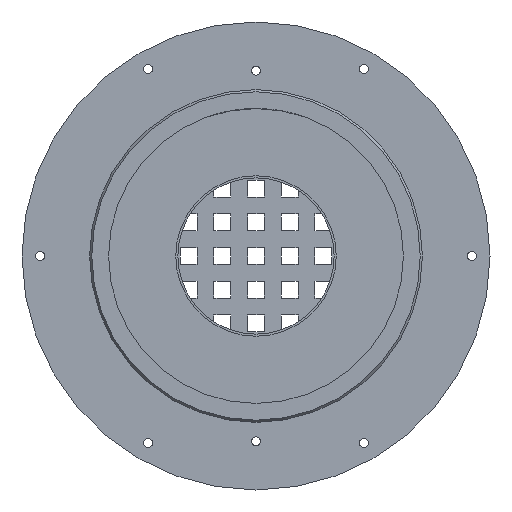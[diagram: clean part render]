
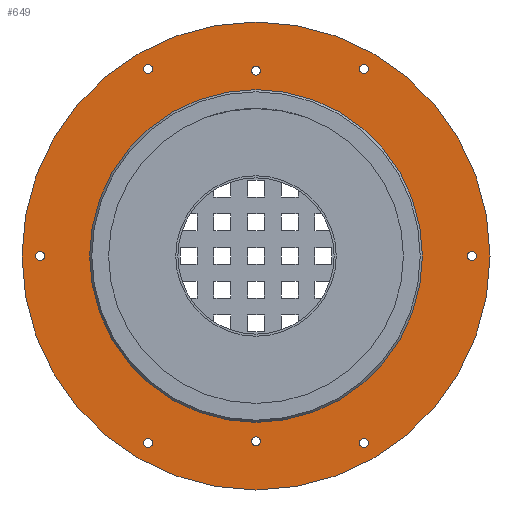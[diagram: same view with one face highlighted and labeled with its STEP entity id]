
A CAD part, front view. The second image highlights one B-rep face of the part: STEP entity #649.
In plain terms, the highlighted planar face has unit normal (0, -1, 0).
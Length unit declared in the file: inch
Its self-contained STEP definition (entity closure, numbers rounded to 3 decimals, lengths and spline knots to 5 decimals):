
#212=CARTESIAN_POINT('',(4.12008,1.0426,0.));
#213=VERTEX_POINT('',#212);
#214=CARTESIAN_POINT('',(4.03543,1.0426,0.));
#215=DIRECTION('',(0.0,1.0,0.0));
#216=DIRECTION('',(-1.0,0.0,0.0));
#217=AXIS2_PLACEMENT_3D('',#214,#215,#216);
#218=CIRCLE('',#217,0.08465);
#219=EDGE_CURVE('',#213,#213,#218,.T.);
#261=CARTESIAN_POINT('',(2.10236,1.0426,3.49478));
#262=VERTEX_POINT('',#261);
#263=CARTESIAN_POINT('',(2.01772,1.0426,3.49478));
#264=DIRECTION('',(0.0,1.0,0.0));
#265=DIRECTION('',(-1.0,0.0,0.0));
#266=AXIS2_PLACEMENT_3D('',#263,#264,#265);
#267=CIRCLE('',#266,0.08465);
#268=EDGE_CURVE('',#262,#262,#267,.T.);
#310=CARTESIAN_POINT('',(0.08465,1.0426,3.46457));
#311=VERTEX_POINT('',#310);
#312=CARTESIAN_POINT('',(0.,1.0426,3.46457));
#313=DIRECTION('',(0.0,1.0,0.0));
#314=DIRECTION('',(-1.0,0.0,0.0));
#315=AXIS2_PLACEMENT_3D('',#312,#313,#314);
#316=CIRCLE('',#315,0.08465);
#317=EDGE_CURVE('',#311,#311,#316,.T.);
#359=CARTESIAN_POINT('',(-1.93307,1.0426,3.49478));
#360=VERTEX_POINT('',#359);
#361=CARTESIAN_POINT('',(-2.01772,1.0426,3.49478));
#362=DIRECTION('',(0.0,1.0,0.0));
#363=DIRECTION('',(-1.0,0.0,0.0));
#364=AXIS2_PLACEMENT_3D('',#361,#362,#363);
#365=CIRCLE('',#364,0.08465);
#366=EDGE_CURVE('',#360,#360,#365,.T.);
#408=CARTESIAN_POINT('',(0.08465,1.0426,-3.46457));
#409=VERTEX_POINT('',#408);
#410=CARTESIAN_POINT('',(0.,1.0426,-3.46457));
#411=DIRECTION('',(0.0,1.0,0.0));
#412=DIRECTION('',(-1.0,0.0,0.0));
#413=AXIS2_PLACEMENT_3D('',#410,#411,#412);
#414=CIRCLE('',#413,0.08465);
#415=EDGE_CURVE('',#409,#409,#414,.T.);
#457=CARTESIAN_POINT('',(-1.93307,1.0426,-3.49478));
#458=VERTEX_POINT('',#457);
#459=CARTESIAN_POINT('',(-2.01772,1.0426,-3.49478));
#460=DIRECTION('',(0.0,1.0,0.0));
#461=DIRECTION('',(-1.0,0.0,0.0));
#462=AXIS2_PLACEMENT_3D('',#459,#460,#461);
#463=CIRCLE('',#462,0.08465);
#464=EDGE_CURVE('',#458,#458,#463,.T.);
#506=CARTESIAN_POINT('',(-3.95079,1.0426,0.));
#507=VERTEX_POINT('',#506);
#508=CARTESIAN_POINT('',(-4.03543,1.0426,0.));
#509=DIRECTION('',(0.0,1.0,0.0));
#510=DIRECTION('',(-1.0,0.0,0.0));
#511=AXIS2_PLACEMENT_3D('',#508,#509,#510);
#512=CIRCLE('',#511,0.08465);
#513=EDGE_CURVE('',#507,#507,#512,.T.);
#555=CARTESIAN_POINT('',(2.10236,1.0426,-3.49478));
#556=VERTEX_POINT('',#555);
#557=CARTESIAN_POINT('',(2.01772,1.0426,-3.49478));
#558=DIRECTION('',(0.0,1.0,0.0));
#559=DIRECTION('',(-1.0,0.0,0.0));
#560=AXIS2_PLACEMENT_3D('',#557,#558,#559);
#561=CIRCLE('',#560,0.08465);
#562=EDGE_CURVE('',#556,#556,#561,.T.);
#583=CARTESIAN_POINT('',(4.375,1.0426,0.));
#584=VERTEX_POINT('',#583);
#585=CARTESIAN_POINT('',(0.0,1.0426,0.0));
#586=DIRECTION('',(0.0,-1.0,0.0));
#587=DIRECTION('',(1.0,0.0,0.0));
#588=AXIS2_PLACEMENT_3D('',#585,#586,#587);
#589=CIRCLE('',#588,4.375);
#590=EDGE_CURVE('',#584,#584,#589,.T.);
#606=CARTESIAN_POINT('',(3.74301,1.0426,0.));
#607=DIRECTION('',(0.0,-1.0,0.0));
#608=DIRECTION('',(0.0,0.0,-1.0));
#609=AXIS2_PLACEMENT_3D('',#606,#607,#608);
#610=PLANE('',#609);
#611=ORIENTED_EDGE('',*,*,#590,.T.);
#612=EDGE_LOOP('',(#611));
#613=FACE_OUTER_BOUND('',#612,.T.);
#614=ORIENTED_EDGE('',*,*,#219,.T.);
#615=EDGE_LOOP('',(#614));
#616=FACE_BOUND('',#615,.T.);
#617=ORIENTED_EDGE('',*,*,#268,.T.);
#618=EDGE_LOOP('',(#617));
#619=FACE_BOUND('',#618,.T.);
#620=ORIENTED_EDGE('',*,*,#317,.T.);
#621=EDGE_LOOP('',(#620));
#622=FACE_BOUND('',#621,.T.);
#623=ORIENTED_EDGE('',*,*,#366,.T.);
#624=EDGE_LOOP('',(#623));
#625=FACE_BOUND('',#624,.T.);
#626=ORIENTED_EDGE('',*,*,#415,.T.);
#627=EDGE_LOOP('',(#626));
#628=FACE_BOUND('',#627,.T.);
#629=ORIENTED_EDGE('',*,*,#464,.T.);
#630=EDGE_LOOP('',(#629));
#631=FACE_BOUND('',#630,.T.);
#632=ORIENTED_EDGE('',*,*,#513,.T.);
#633=EDGE_LOOP('',(#632));
#634=FACE_BOUND('',#633,.T.);
#635=ORIENTED_EDGE('',*,*,#562,.T.);
#636=EDGE_LOOP('',(#635));
#637=FACE_BOUND('',#636,.T.);
#638=CARTESIAN_POINT('',(3.11103,1.0426,0.));
#639=VERTEX_POINT('',#638);
#640=CARTESIAN_POINT('',(0.0,1.0426,0.0));
#641=DIRECTION('',(0.0,-1.0,0.0));
#642=DIRECTION('',(1.0,0.0,0.0));
#643=AXIS2_PLACEMENT_3D('',#640,#641,#642);
#644=CIRCLE('',#643,3.11103);
#645=EDGE_CURVE('',#639,#639,#644,.T.);
#646=ORIENTED_EDGE('',*,*,#645,.F.);
#647=EDGE_LOOP('',(#646));
#648=FACE_BOUND('',#647,.T.);
#649=ADVANCED_FACE('',(#613,#616,#619,#622,#625,#628,#631,#634,#637,#648),#610,.T.);
